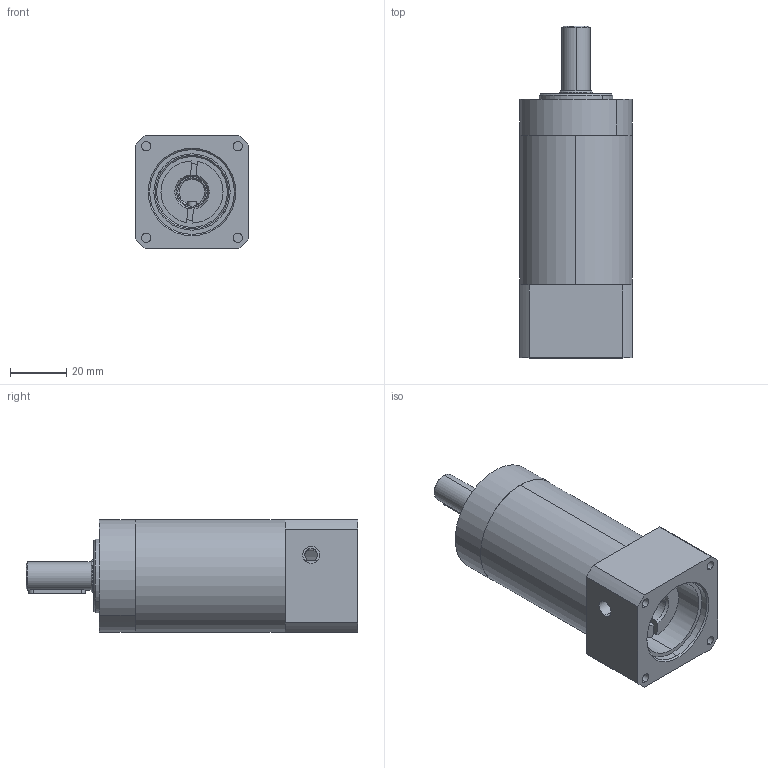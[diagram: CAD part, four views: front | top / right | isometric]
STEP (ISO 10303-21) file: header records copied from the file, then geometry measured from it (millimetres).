
FILE_DESCRIPTION (( 'STEP AP214' ), '1' );
FILE_NAME ('×°ÅäÌå6.STEP', '2017-04-18T13:11:58', ( '' ), ( '' ), 'SwSTEP 2.0', 'SolidWorks 2016', '' );
FILE_SCHEMA (( 'AUTOMOTIVE_DESIGN' ));
Length unit declared in the file: millimetre
Products named in the file (1): 蚾饜极6
Bounding box: 40 x 117.5 x 40 mm (x, y, z)
Surface area: 21334.5 mm2 (no closed solid volume)
Topology: 0 solids, 7 shells, 82 faces, 237 edges, 161 vertices
Faces by surface type: cylinder 48, plane 23, cone 11
Entity records: 3891 total; most frequent: CARTESIAN_POINT 735, DIRECTION 506, ORIENTED_EDGE 408, EDGE_CURVE 237, AXIS2_PLACEMENT_3D 204, VERTEX_POINT 161, CIRCLE 121, EDGE_LOOP 103
